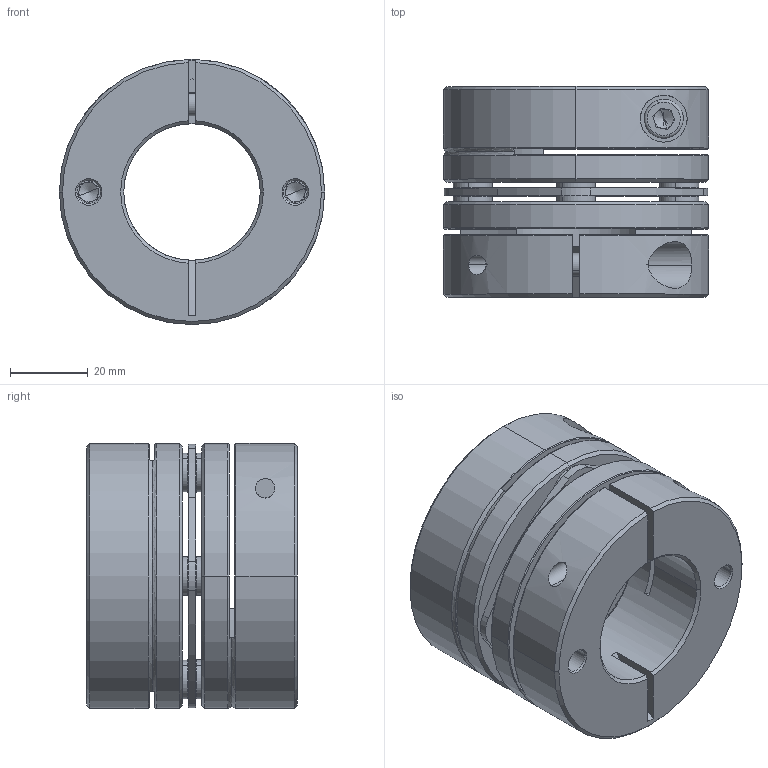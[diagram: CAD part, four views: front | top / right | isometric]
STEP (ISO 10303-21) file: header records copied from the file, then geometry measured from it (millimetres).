
FILE_DESCRIPTION (( 'STEP AP203' ), '1' );
FILE_NAME ('LD1-D68-35-35.STEP', '2021-10-26T08:04:12', ( '' ), ( '' ), 'SwSTEP 2.0', 'SolidWorks 2018', '' );
FILE_SCHEMA (( 'CONFIG_CONTROL_DESIGN' ));
Length unit declared in the file: millimetre
Products named in the file (2): LD1-D68-35-35; 錨璃101^LD1-D68
Assembly tree (1 placements, depth 2):
  LD1-D68-35-35
    錨璃101^LD1-D68
Bounding box: 68 x 54 x 68 mm (x, y, z)
Volume: 121369.8 mm3; surface area: 43828.3 mm2
Topology: 1 solids, 15 shells, 441 faces, 1047 edges, 642 vertices
Faces by surface type: cylinder 161, plane 136, cone 122, torus 22
Entity records: 13321 total; most frequent: CARTESIAN_POINT 2590, DIRECTION 2405, ORIENTED_EDGE 2062, EDGE_CURVE 1031, AXIS2_PLACEMENT_3D 977, VERTEX_POINT 642, CIRCLE 532, EDGE_LOOP 521
